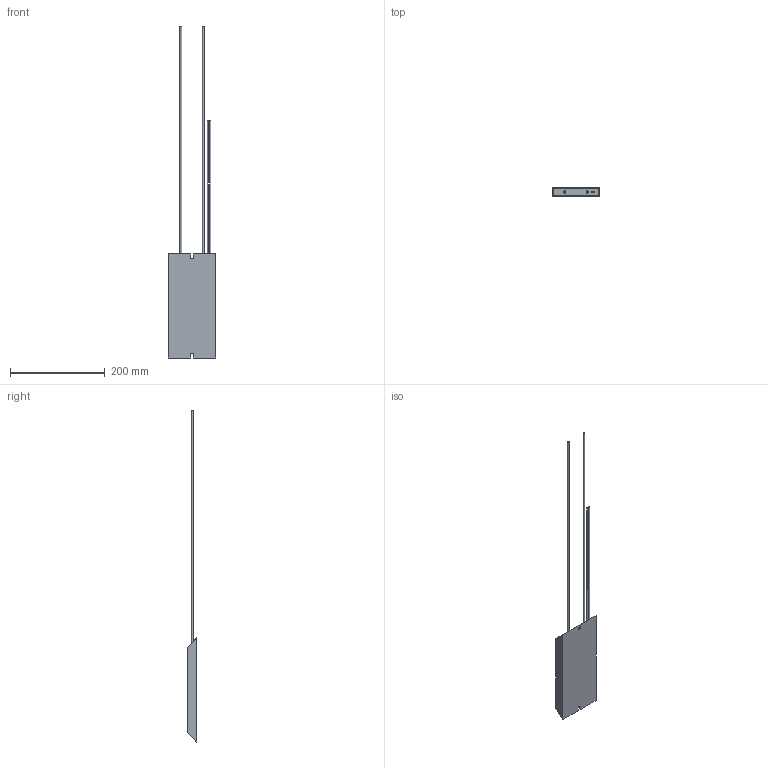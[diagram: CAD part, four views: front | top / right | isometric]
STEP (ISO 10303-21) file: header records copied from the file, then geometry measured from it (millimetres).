
FILE_DESCRIPTION(/* description */ (''),/* implementation_level */ '2;1');
FILE_NAME(/* name */ 'C:\_Vault\Dati\CATALOGO\RFD\RFDVT550.stp',/* time_stamp */ '2014-03-25T10:50:57+01:00',/* author */ ('stefano'),/* organization */ (''),/* preprocessor_version */ 'ST-DEVELOPER v15.2',/* originating_system */ 'Autodesk Inventor 2014',/* authorisation */ '');
FILE_SCHEMA (('AUTOMOTIVE_DESIGN { 1 0 10303 214 3 1 1 }'));
Length unit declared in the file: millimetre
Products named in the file (1): RFDVT550
Bounding box: 100 x 20 x 702.1 mm (x, y, z)
Volume: 390746.1 mm3; surface area: 73114.3 mm2
Topology: 1 solids, 1 shells, 36 faces, 78 edges, 52 vertices
Faces by surface type: plane 26, cylinder 10
Full cylindrical faces by diameter (mm): 1.5 x2, 2 x2, 2.5 x2, 4 x2
Entity records: 1048 total; most frequent: DIRECTION 164, CARTESIAN_POINT 159, ORIENTED_EDGE 140, EDGE_CURVE 70, AXIS2_PLACEMENT_3D 57, EDGE_LOOP 52, VERTEX_POINT 52, LINE 50
